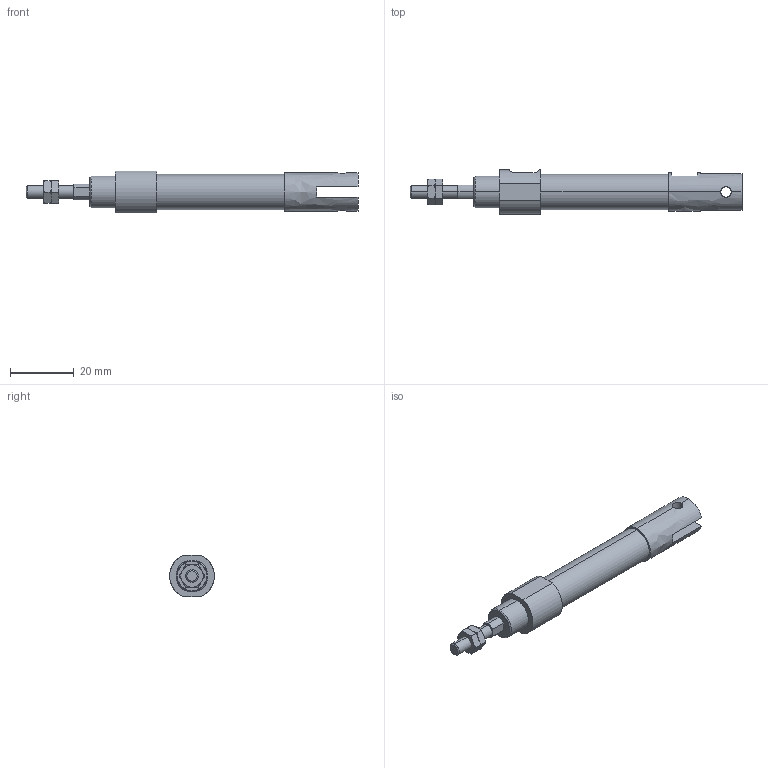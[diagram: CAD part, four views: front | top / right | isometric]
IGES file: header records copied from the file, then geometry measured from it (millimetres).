
Start section: SolidWorks IGES file using analytic representation for surfaces
Global section: file name: C:\Users\Toshiba\Desktop\ZGU2-10-15-W.IGS; native system: SolidWorks 2014; preprocessor: SolidWorks 2014; author: Toshiba; date: 160331.085128; units: millimetre
Bounding box: 104 x 14 x 13 mm (x, y, z)
Surface area: 4437.3 mm2 (no closed solid volume)
Topology: 0 solids, 0 shells, 94 faces, 1442 edges, 1438 vertices
Faces by surface type: bspline 61, revolution 33
